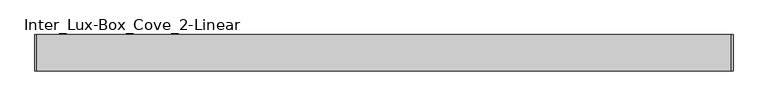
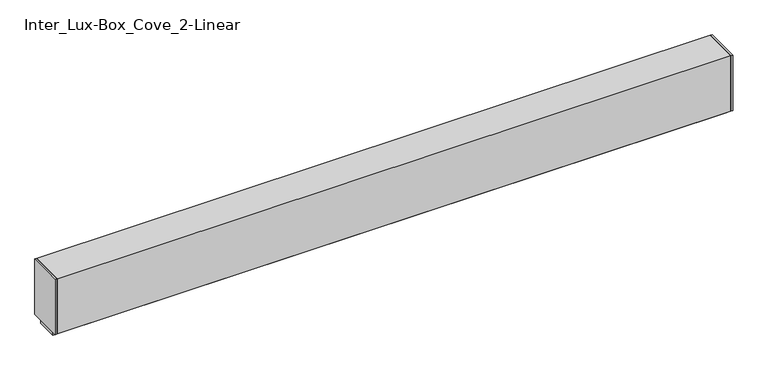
"""IFC4 building model written with IfcOpenShell, lengths in millimetres: light fixture geometry, Inter_Lux-Box_Cove_2-Linear : WG-BC2-48."""

from ifc_helpers import new_model, si_unit, frame, origin, origin_with_axes, place, context, project, spatial, polyline, outline, extrude, source, transform, mapped, element, save


def inter_lux_box_cove_2_linear_443eb57c(model_context):
    return source(origin(), model_context, "Body", "SweptSolid", [
        extrude(outline(polyline([(28.5291428, 52.399339), (27.1145076, 53.3286003), (22.7583024, 99.2666021), (24.0177286, 99.9740852), (28.5291428, 52.399339)])), frame((-606.425, 0.0, 0.0), z_axis=(1.0, 0.0, 0.0), x_axis=(0.0, 1.0, 0.0)), (0.0, 0.0, 1.0), 1212.85),
        extrude(outline(polyline([(606.425, 19.05), (606.425, -19.05), (-606.425, -19.05), (-606.425, 19.05), (606.425, 19.05)])), origin_with_axes(), (0.0, 0.0, 1.0), 10.4825619),
        extrude(outline(polyline([(609.6, 31.75), (609.6, -31.75), (606.425, -31.75), (606.425, 31.75), (609.6, 31.75)])), frame((0.0, 0.0, 10.31875), z_axis=(0.0, 0.0, 1.0), x_axis=(1.0, 0.0, 0.0)), (0.0, 0.0, 1.0), 105.3520075),
        extrude(outline(polyline([(29.52626, 51.7443416), (31.75, 13.49375), (30.1583865, 13.49375), (27.929581, 51.1979954), (8.296285, 64.0949328), (8.296285, 76.1922878), (12.3594897, 95.308163), (27.0595865, 103.5654863), (27.0595865, 112.4957575), (28.5835865, 112.4957575), (28.5835865, 102.5389575), (13.8539227, 94.2645637), (9.947285, 75.8852783), (9.947285, 64.605596), (29.52626, 51.7443416)])), frame((-606.425, 0.0, 0.0), z_axis=(1.0, 0.0, 0.0), x_axis=(0.0, 1.0, 0.0)), (0.0, 0.0, 1.0), 1212.85),
        extrude(outline(polyline([(-31.75, 115.6707575), (31.75, 115.6707575), (31.75, 112.4957575), (27.0595865, 112.4957575), (27.0595865, 103.8140045), (23.8845865, 103.8140045), (23.8845865, 112.4957575), (-28.575, 112.4957575), (-28.575, 13.49375), (31.75, 13.49375), (31.75, 10.31875), (-31.75, 10.31875), (-31.75, 115.6707575)])), frame((-606.425, 0.0, 0.0), z_axis=(1.0, 0.0, 0.0), x_axis=(0.0, 1.0, 0.0)), (0.0, 0.0, 1.0), 1212.85),
        extrude(outline(polyline([(-609.6, -31.75), (-609.6, 31.75), (-606.425, 31.75), (-606.425, -31.75), (-609.6, -31.75)])), frame((0.0, 0.0, 10.31875), z_axis=(0.0, 0.0, 1.0), x_axis=(1.0, 0.0, 0.0)), (0.0, 0.0, 1.0), 105.3520075),
    ])


if __name__ == "__main__":
    model = new_model("IFC4")
    model_context = context("Model", 3, world=origin())
    ifc_project = project(units=[si_unit("LENGTHUNIT", "METRE", prefix="MILLI")], contexts=[model_context])
    site = spatial("IfcSite", under=ifc_project)
    building = spatial("IfcBuilding", under=site)
    placement = place(None, origin())
    inter_lux_box_cove_2_linear_shape = inter_lux_box_cove_2_linear_443eb57c(model_context)
    element("IfcLightFixture", 1, ObjectType="Inter_Lux-Box_Cove_2-Linear : WG-BC2-48", at=placement, inside=building, context=model_context, shape_type="MappedRepresentation", body=[
        mapped(inter_lux_box_cove_2_linear_shape, transform((0.0, 0.0, 0.0), x_axis=(1.0, 0.0, 0.0), y_axis=(0.0, 1.0, 0.0), z_axis=(0.0, 0.0, 1.0))),
    ])
    save(model, "model.ifc")
